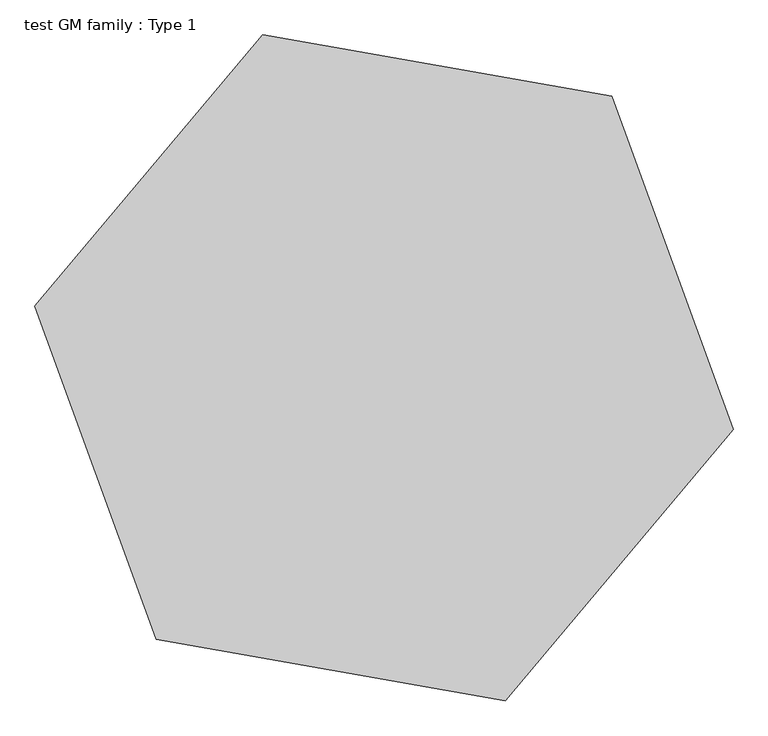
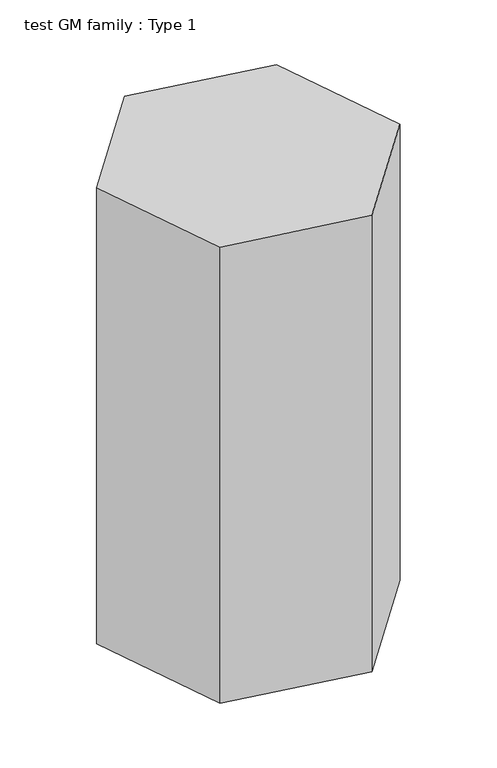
"""IFC4 building model written with IfcOpenShell, lengths in millimetres: railing geometry, test GM family : Type 1."""

from ifc_helpers import new_model, si_unit, origin, origin_with_axes, place, context, project, spatial, polyline, outline, extrude, source, transform, mapped, element, save


def test_gm_family_type_1_cdf7cc9a(model_context):
    return source(origin(), model_context, "Body", "SweptSolid", [
        extrude(outline(polyline([(-198.3716831, 545.0217201), (372.8168136, 444.305777), (571.1884967, -100.715943), (198.3716831, -545.0217201), (-372.8168136, -444.305777), (-571.1884967, 100.715943), (-198.3716831, 545.0217201)])), origin_with_axes(), (0.0, 0.0, 1.0), 2000.0),
    ])


if __name__ == "__main__":
    model = new_model("IFC4")
    model_context = context("Model", 3, world=origin())
    ifc_project = project(units=[si_unit("LENGTHUNIT", "METRE", prefix="MILLI")], contexts=[model_context])
    site = spatial("IfcSite", under=ifc_project)
    building = spatial("IfcBuilding", under=site)
    placement = place(None, origin())
    test_gm_family_type_1_shape = test_gm_family_type_1_cdf7cc9a(model_context)
    element("IfcRailing", 1, ObjectType="test GM family : Type 1", at=placement, inside=building, context=model_context, shape_type="MappedRepresentation", body=[
        mapped(test_gm_family_type_1_shape, transform((0.0, 0.0, 0.0), x_axis=(1.0, 0.0, 0.0), y_axis=(0.0, 1.0, 0.0), z_axis=(0.0, 0.0, 1.0))),
    ])
    save(model, "model.ifc")
